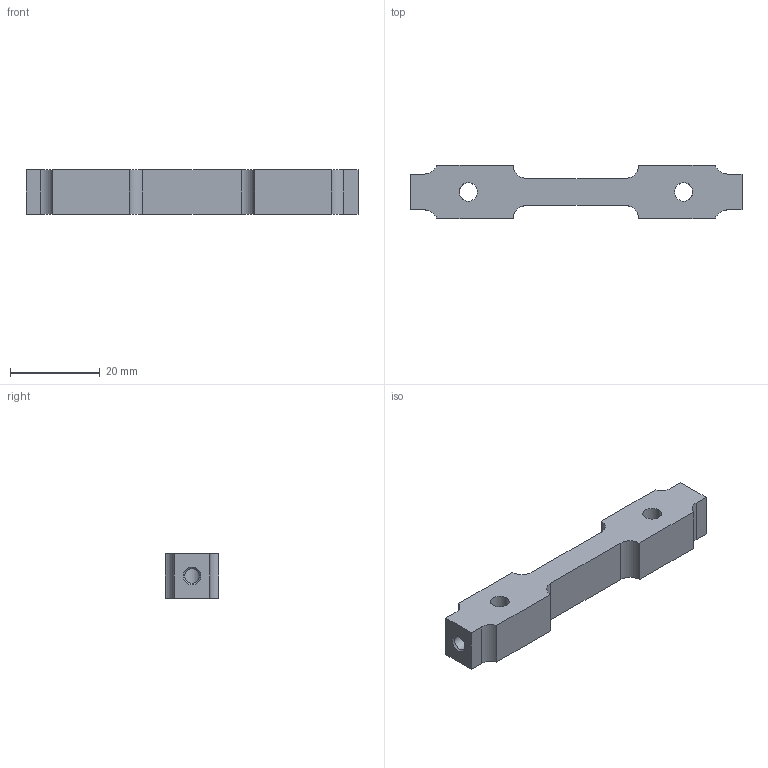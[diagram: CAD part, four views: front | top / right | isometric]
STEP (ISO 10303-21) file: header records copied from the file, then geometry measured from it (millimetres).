
FILE_DESCRIPTION(/* description */ (''),/* implementation_level */ '2;1');
FILE_NAME(/* name */ 'front_steering_brace_26012016.stp',/* time_stamp */ '2016-01-26T01:26:35+03:00',/* author */ (''),/* organization */ (''),/* preprocessor_version */ 'ST-DEVELOPER v15',/* originating_system */ 'SIEMENS PLM Software NX 9.0',/* authorisation */ '');
FILE_SCHEMA (('AUTOMOTIVE_DESIGN { 1 0 10303 214 3 1 1 1 }'));
Length unit declared in the file: millimetre
Products named in the file (1): c0f007BCC3D27ity
Bounding box: 74 x 12 x 10 mm (x, y, z)
Volume: 6402.8 mm3; surface area: 3514.7 mm2
Topology: 1 solids, 1 shells, 28 faces, 80 edges, 53 vertices
Faces by surface type: plane 14, cylinder 12, cone 2
Full cylindrical faces by diameter (mm): 3.3 x2, 4.1 x2
Entity records: 1034 total; most frequent: CARTESIAN_POINT 281, DIRECTION 150, ORIENTED_EDGE 140, EDGE_CURVE 70, AXIS2_PLACEMENT_3D 53, VERTEX_POINT 50, LINE 44, VECTOR 44
